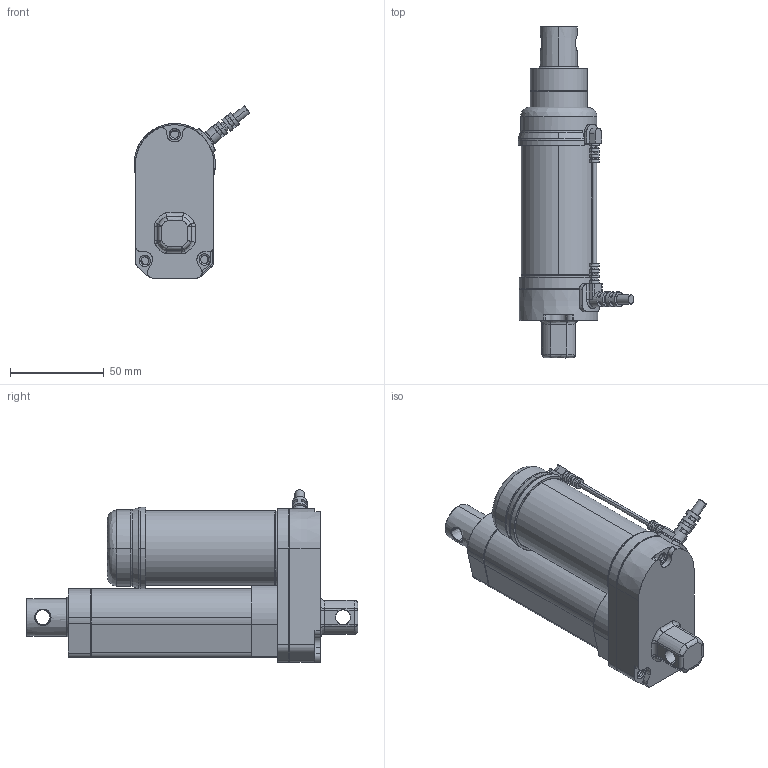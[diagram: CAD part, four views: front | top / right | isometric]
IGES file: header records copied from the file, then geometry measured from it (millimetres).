
Start section: SolidWorks IGES file using analytic representation for surfaces
Global section: file name: C:\Users\lynn\Desktop\¤u§@¥Î¸ê®Æ§¨\3D CAD Models Community\0-µ¹Camy\LD3\LD3-HS.IGS; native system: SolidWorks 2020; preprocessor: SolidWorks 2020; author: lynn; date: 220705.091030; units: millimetre
Bounding box: 61.99 x 177.5 x 92.19 mm (x, y, z)
Surface area: 85430.3 mm2 (no closed solid volume)
Topology: 0 solids, 0 shells, 626 faces, 9366 edges, 9366 vertices
Faces by surface type: bspline 345, revolution 281
